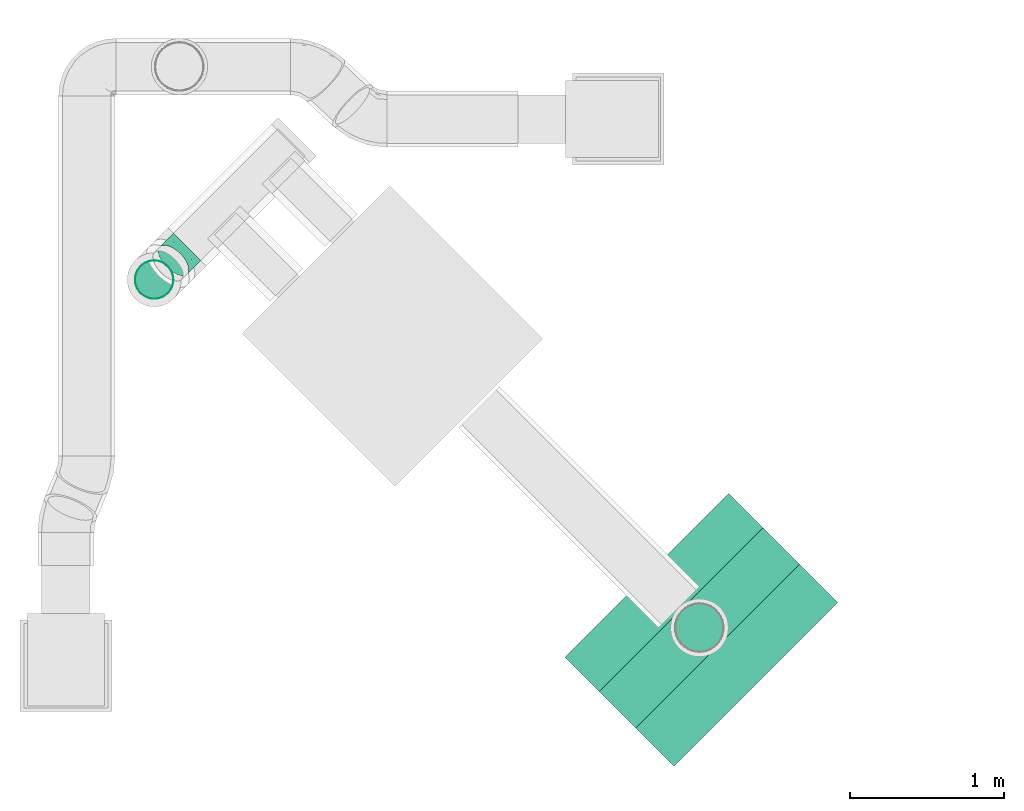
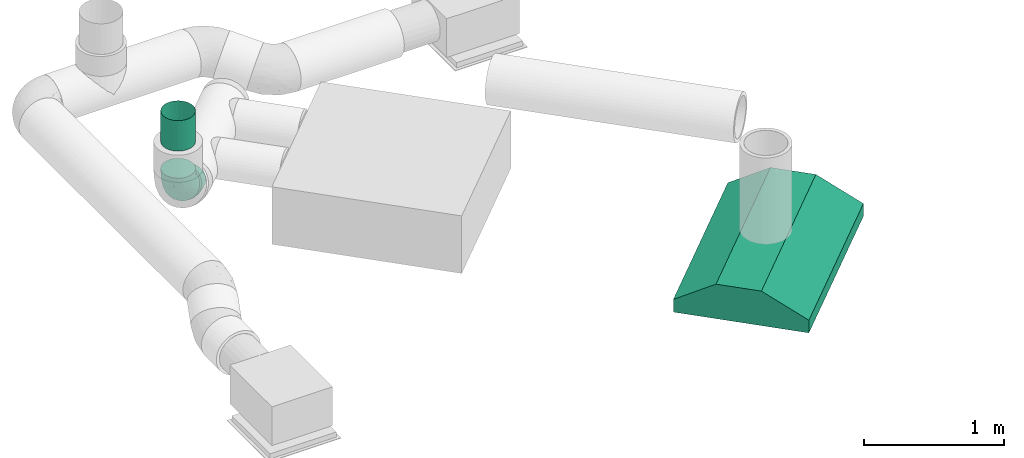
# One storey, part 9 of 12: 2 flow fittings, 1 flow controller, 1 flow terminal.
"""IFC2X3 building model written with IfcOpenShell, lengths in millimetres."""

from ifc_helpers import new_model, entity, si_unit, converted_unit, derived_unit, direction, frame, origin_with_axes, place, context, subcontext, project, spatial, open_shell, surface_model, source, transform, mapped, type_object, element, save


model = new_model("IFC2X3")

# Units and contexts
model_context = context("Model", 3, precision=0.01, world=frame((0.0, 4.29681676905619e-09, 0.0)), true_north=direction((4.01073788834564e-13, 1.0)))
plan_context = context("Plan", 3, precision=0.01, world=frame((0.0, 4.29681676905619e-09, 0.0)), true_north=direction((4.01073788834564e-13, 1.0)))
body_context = subcontext(model_context, "Body", "Model", "MODEL_VIEW")
ifc_project = project(units=[converted_unit("PLANEANGLEUNIT", "DEGREE", entity("IfcPositiveLengthMeasure", 0.0174532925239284), si_unit("PLANEANGLEUNIT", "RADIAN"), dimensions=[0, 0, 0, 0, 0, 0, 0]), si_unit("AREAUNIT", "SQUARE_METRE"), si_unit("LENGTHUNIT", "METRE", prefix="MILLI"), si_unit("MASSUNIT", "GRAM", prefix="KILO"), si_unit("POWERUNIT", "WATT"), si_unit("PRESSUREUNIT", "PASCAL", prefix="KILO"), si_unit("FORCEUNIT", "NEWTON", prefix="KILO"), si_unit("ELECTRICVOLTAGEUNIT", "VOLT"), si_unit("ELECTRICCURRENTUNIT", "AMPERE"), si_unit("THERMODYNAMICTEMPERATUREUNIT", "DEGREE_CELSIUS"), si_unit("TIMEUNIT", "SECOND"), si_unit("VOLUMEUNIT", "CUBIC_METRE"), derived_unit("LINEARVELOCITYUNIT", [(si_unit("LENGTHUNIT", "METRE"), 1), (si_unit("TIMEUNIT", "SECOND"), -1)]), derived_unit("VOLUMETRICFLOWRATEUNIT", [(si_unit("VOLUMEUNIT", "CUBIC_METRE"), 1), (si_unit("TIMEUNIT", "SECOND"), -1)]), derived_unit("THERMALTRANSMITTANCEUNIT", [(si_unit("POWERUNIT", "WATT"), 1), (si_unit("THERMODYNAMICTEMPERATUREUNIT", "KELVIN"), -1), (si_unit("AREAUNIT", "SQUARE_METRE"), -1)]), derived_unit("SOUNDPRESSUREUNIT", [(si_unit("PRESSUREUNIT", "PASCAL"), 1)])], contexts=[model_context, plan_context])

# Site, building, storey
site_placement = place(None, frame((0.0, -4.29681676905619e-09, 0.0), z_axis=(0.0, 0.0, 1.0), x_axis=(1.0, 0.0, 0.0)))
site = spatial("IfcSite", under=ifc_project, at=site_placement, CompositionType="ELEMENT")
building_placement = place(site_placement, frame((0.0, 4.29681676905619e-09, 0.0), z_axis=(0.0, 0.0, 1.0), x_axis=(1.0, 0.0, 0.0)))
building = spatial("IfcBuilding", under=site, at=building_placement, Name="mc-building", CompositionType="ELEMENT")
storey_placement = place(building_placement, frame((0.0, 0.0, 204000.0), z_axis=(0.0, 0.0, 1.0), x_axis=(1.0, 0.0, 0.0)))
storey = spatial("IfcBuildingStorey", under=building, at=storey_placement, Name="Nivå D", CompositionType="ELEMENT", Elevation=204000.0)

# Flow controller
damper_type = type_object("IfcDamperType", Name="IGNIS-C-EI30-250", PredefinedType="FIREDAMPER")
shared_shape_1 = source(origin_with_axes(), body_context, "Body", "SurfaceModel", [
    surface_model("IfcShellBasedSurfaceModel", [(132.5, 62.25, -107.82016), (132.5, 88.0348, -88.0348), (132.5, 62.15, -107.64695), (132.5, 32.17121, -120.06458), (132.5, 0.0, -124.3), (132.5, 32.22297, -120.25777), (132.5, 0.0, -124.5), (132.5, 87.89337, -87.89337), (132.5, 120.25777, -32.22297), (132.5, 124.3, 0.0), (132.5, 120.06458, -32.17121), (132.5, 124.5, 0.0), (132.5, 107.82016, -62.25), (132.5, 107.64695, -62.15), (132.5, -32.17121, -120.06458), (132.5, -32.22297, -120.25777), (132.5, -62.15, -107.64695), (132.5, -88.0348, -88.0348), (132.5, -62.25, -107.82016), (132.5, -87.89337, -87.89337), (132.5, -107.64695, -62.15), (132.5, -107.82016, -62.25), (132.5, -120.06458, -32.17121), (132.5, -120.25777, -32.22297), (132.5, -124.3, 0.0), (132.5, -124.5, 0.0), (132.5, 120.25777, 32.22297), (132.5, 120.06458, 32.17121), (132.5, 107.64695, 62.15), (132.5, 107.82016, 62.25), (132.5, 87.89337, 87.89337), (132.5, 88.0348, 88.0348), (132.5, 62.25, 107.82016), (132.5, 62.15, 107.64695), (132.5, 32.17121, 120.06458), (132.5, 32.22297, 120.25777), (132.5, 0.0, 124.3), (132.5, 0.0, 124.5), (132.5, -107.82016, 62.25), (132.5, -107.64695, 62.15), (132.5, -88.0348, 88.0348), (132.5, -87.89337, 87.89337), (132.5, -120.25777, 32.22297), (132.5, -120.06458, 32.17121), (132.5, -32.17121, 120.06458), (132.5, -32.22297, 120.25777), (132.5, -62.15, 107.64695), (132.5, -62.25, 107.82016), (-132.5, 62.25, 107.82016), (-132.5, 88.0348, 88.0348), (-132.5, 62.15, 107.64695), (-132.5, 32.17121, 120.06458), (-132.5, 0.0, 124.3), (-132.5, 32.22297, 120.25777), (-132.5, 0.0, 124.5), (-132.5, 87.89337, 87.89337), (-132.5, 120.25777, 32.22297), (-132.5, 124.3, 0.0), (-132.5, 120.06458, 32.17121), (-132.5, 124.5, 0.0), (-132.5, 107.82016, 62.25), (-132.5, 107.64695, 62.15), (-132.5, -32.17121, 120.06458), (-132.5, -32.22297, 120.25777), (-132.5, -62.15, 107.64695), (-132.5, -88.0348, 88.0348), (-132.5, -62.25, 107.82016), (-132.5, -87.89337, 87.89337), (-132.5, -107.64695, 62.15), (-132.5, -107.82016, 62.25), (-132.5, -120.06458, 32.17121), (-132.5, -120.25777, 32.22297), (-132.5, -124.3, 0.0), (-132.5, -124.5, 0.0), (-132.5, 120.25777, -32.22297), (-132.5, 120.06458, -32.17121), (-132.5, 107.64695, -62.15), (-132.5, 107.82016, -62.25), (-132.5, 87.89337, -87.89337), (-132.5, 88.0348, -88.0348), (-132.5, 62.25, -107.82016), (-132.5, 62.15, -107.64695), (-132.5, 32.17121, -120.06458), (-132.5, 32.22297, -120.25777), (-132.5, 0.0, -124.3), (-132.5, 0.0, -124.5), (-132.5, -107.82016, -62.25), (-132.5, -107.64695, -62.15), (-132.5, -88.0348, -88.0348), (-132.5, -87.89337, -87.89337), (-132.5, -120.25777, -32.22297), (-132.5, -120.06458, -32.17121), (-132.5, -32.17121, -120.06458), (-132.5, -32.22297, -120.25777), (-132.5, -62.15, -107.64695), (-132.5, -62.25, -107.82016)], [open_shell([[[0, 1, 2]], [[0, 2, 3]], [[4, 5, 3]], [[5, 4, 6]], [[3, 5, 0]], [[2, 1, 7]], [[8, 9, 10]], [[9, 8, 11]], [[8, 10, 12]], [[7, 12, 13]], [[12, 7, 1]], [[13, 12, 10]], [[6, 14, 15]], [[15, 14, 16]], [[17, 18, 19]], [[16, 18, 15]], [[16, 19, 18]], [[6, 4, 14]], [[20, 21, 17]], [[21, 20, 22]], [[20, 17, 19]], [[23, 22, 24]], [[22, 23, 21]], [[23, 24, 25]], [[11, 26, 27]], [[27, 26, 28]], [[28, 29, 30]], [[29, 28, 26]], [[30, 29, 31]], [[31, 32, 33]], [[33, 32, 34]], [[34, 35, 36]], [[35, 34, 32]], [[36, 35, 37]], [[33, 30, 31]], [[38, 39, 40]], [[40, 39, 41]], [[39, 38, 42]], [[25, 43, 42]], [[42, 43, 39]], [[25, 24, 43]], [[44, 37, 45]], [[44, 45, 46]], [[41, 47, 40]], [[41, 46, 47]], [[47, 46, 45]], [[36, 37, 44]], [[27, 9, 11]], [[48, 49, 50]], [[48, 50, 51]], [[52, 53, 51]], [[53, 52, 54]], [[51, 53, 48]], [[50, 49, 55]], [[56, 57, 58]], [[57, 56, 59]], [[56, 58, 60]], [[55, 60, 61]], [[60, 55, 49]], [[61, 60, 58]], [[54, 62, 63]], [[63, 62, 64]], [[65, 66, 67]], [[64, 66, 63]], [[64, 67, 66]], [[54, 52, 62]], [[68, 69, 65]], [[69, 68, 70]], [[68, 65, 67]], [[71, 70, 72]], [[70, 71, 69]], [[71, 72, 73]], [[59, 74, 75]], [[75, 74, 76]], [[76, 77, 78]], [[77, 76, 74]], [[78, 77, 79]], [[79, 80, 81]], [[81, 80, 82]], [[82, 83, 84]], [[83, 82, 80]], [[84, 83, 85]], [[81, 78, 79]], [[86, 87, 88]], [[88, 87, 89]], [[87, 86, 90]], [[73, 91, 90]], [[90, 91, 87]], [[73, 72, 91]], [[92, 85, 93]], [[92, 93, 94]], [[89, 95, 88]], [[89, 94, 95]], [[95, 94, 93]], [[84, 85, 92]], [[75, 57, 59]], [[23, 90, 86]], [[88, 21, 86]], [[18, 95, 93]], [[88, 95, 17]], [[15, 93, 85]], [[90, 25, 73]], [[90, 23, 25]], [[86, 21, 23]], [[88, 17, 21]], [[18, 17, 95]], [[93, 15, 18]], [[85, 6, 15]], [[5, 83, 80]], [[79, 0, 80]], [[12, 77, 74]], [[79, 77, 1]], [[8, 74, 59]], [[83, 5, 6]], [[80, 0, 5]], [[79, 1, 0]], [[77, 12, 1]], [[8, 12, 74]], [[59, 11, 8]], [[83, 6, 85]], [[59, 56, 26]], [[53, 32, 48]], [[48, 31, 49]], [[35, 53, 54]], [[59, 26, 11]], [[26, 56, 60]], [[26, 60, 29]], [[60, 49, 29]], [[49, 31, 29]], [[32, 31, 48]], [[53, 35, 32]], [[54, 37, 35]], [[45, 63, 66]], [[65, 47, 66]], [[38, 69, 71]], [[65, 69, 40]], [[42, 71, 73]], [[63, 45, 37]], [[66, 47, 45]], [[65, 40, 47]], [[69, 38, 40]], [[42, 38, 71]], [[73, 25, 42]], [[63, 37, 54]], [[87, 91, 22]], [[87, 20, 89]], [[92, 94, 16]], [[19, 94, 89]], [[84, 92, 14]], [[72, 24, 91]], [[24, 22, 91]], [[22, 20, 87]], [[20, 19, 89]], [[94, 19, 16]], [[16, 14, 92]], [[14, 4, 84]], [[81, 82, 3]], [[81, 2, 78]], [[75, 76, 13]], [[7, 76, 78]], [[57, 75, 10]], [[4, 3, 82]], [[3, 2, 81]], [[2, 7, 78]], [[7, 13, 76]], [[75, 13, 10]], [[10, 9, 57]], [[84, 4, 82]], [[27, 58, 57]], [[50, 33, 51]], [[55, 30, 50]], [[52, 51, 34]], [[9, 27, 57]], [[61, 58, 27]], [[28, 61, 27]], [[28, 55, 61]], [[28, 30, 55]], [[50, 30, 33]], [[33, 34, 51]], [[34, 36, 52]], [[64, 62, 44]], [[64, 46, 67]], [[70, 68, 39]], [[41, 68, 67]], [[72, 70, 43]], [[36, 44, 62]], [[44, 46, 64]], [[46, 41, 67]], [[41, 39, 68]], [[70, 39, 43]], [[43, 24, 72]], [[52, 36, 62]]])]),
])
flow_controller_placement = place(storey_placement, frame((597169.2875, 403005.94192, 3317.59680999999), z_axis=(-1.0, 0.0, 0.0), x_axis=(0.0, 0.0, 1.0)))
element("IfcFlowController", 1, at=flow_controller_placement, inside=storey, type_object=damper_type, Name="IGNIS-C-EI30-250", context=body_context, shape_type="MappedRepresentation", body=[
    mapped(shared_shape_1, transform((0.0, 0.0, 0.0), scale=1.0)),
])

# Flow fittings
duct_fitting_type = type_object("IfcDuctFittingType", Name="magicirc_elbow_full_radius_001", PredefinedType="BEND")
shared_shape_2 = source(origin_with_axes(), body_context, "Body", "SurfaceModel", [
    surface_model("IfcShellBasedSurfaceModel", [(-144.33757, 62.5, -108.25318), (-144.33757, 32.35238, -120.74073), (-144.33757, 0.0, -125.0), (-144.33757, -120.74073, 32.35238), (-144.33757, 120.74073, -32.35238), (-144.33757, 108.25318, -62.5), (-144.33757, 88.38835, -88.38835), (-144.33757, -108.25318, -62.5), (-144.33757, -62.5, -108.25318), (-144.33757, -88.38835, -88.38835), (-144.33757, -32.35238, -120.74073), (-144.33757, -125.0, 0.0), (-144.33757, -120.74073, -32.35238), (-144.33757, 120.74073, 32.35238), (-144.33757, 108.25318, 62.5), (-144.33757, 88.38835, 88.38835), (-144.33757, 62.5, 108.25318), (-144.33757, 32.35238, 120.74073), (-144.33757, -88.38835, 88.38835), (-144.33757, -62.5, 108.25318), (-144.33757, -108.25318, 62.5), (-144.33757, -32.35238, 120.74073), (-144.33757, 0.0, 125.0), (-144.33757, 125.0, 0.0), (72.16878, 125.0, -125.0), (44.1508, 141.17619, -120.74073), (18.0422, 156.25, -108.25318), (176.73333, 64.62964, 32.35238), (100.18677, 108.82381, -120.74073), (-32.39575, 185.37037, 32.35238), (-4.37777, 169.19418, -88.38835), (-21.58122, 179.12658, -62.5), (148.71534, 80.80582, -88.38835), (126.29537, 93.75, -108.25318), (176.73333, 64.62964, -32.35238), (165.91878, 70.87341, -62.5), (180.42196, 62.5, 0.0), (-32.39575, 185.37037, -32.35238), (-4.37777, 169.19418, 88.38835), (-21.58122, 179.12658, 62.5), (18.0422, 156.25, 108.25318), (44.1508, 141.17619, 120.74073), (148.71534, 80.80582, 88.38835), (165.91878, 70.87341, 62.5), (126.29537, 93.75, 108.25318), (72.16878, 125.0, 125.0), (100.18677, 108.82381, 120.74073), (-36.08439, 187.5, 0.0), (26.49044, 37.93753, 122.99296), (4.09196, 55.44238, 124.8881), (-18.1161, 31.378, 124.97613), (-79.2195, -119.30291, 0.0), (-89.8339, -114.05336, 40.92505), (-113.24598, -122.27984, 0.0), (64.09517, 73.73329, 122.87087), (92.37672, 57.94664, 112.3354), (-40.4364, -74.35157, 86.13376), (-61.55425, -46.64733, 110.73899), (-88.59351, -77.10854, 94.49749), (-106.55267, -100.10298, 72.06405), (-60.58018, -95.57784, 66.91194), (-107.15621, -50.12604, 113.47732), (-91.23447, -18.4106, 122.7494), (59.12757, 15.83042, 109.54055), (11.99971, 0.54518, 116.85028), (37.80862, -23.34323, 97.29938), (-10.67839, -79.37452, 67.1046), (-38.41478, -103.55612, 38.00607), (8.55986, -84.00999, 43.07909), (-104.34206, 115.17128, 60.53487), (-90.20377, 102.9436, 83.19136), (-70.83656, 124.90274, 67.9657), (53.14647, -41.62684, 71.97067), (26.54426, -65.7775, 61.10126), (40.24792, -68.22709, 41.56722), (47.08493, 109.51312, 124.36768), (-117.97434, 45.75756, 116.97624), (-100.34943, 14.00554, 124.60409), (-102.57047, 75.53286, 103.15141), (-50.15883, 150.19063, 53.92119), (-91.53272, 129.98979, 38.61407), (-81.83756, 141.74683, 0.0), (-111.98519, 129.25927, 0.0), (-13.39003, 69.60192, 122.03015), (-45.43703, 45.70377, 122.86135), (69.54677, -51.82231, 35.26206), (43.16243, -74.75953, 0.0), (69.93511, -56.0131, 0.0), (-55.04518, 158.15986, 27.63354), (-47.18758, 91.27179, 107.43201), (-12.57635, 128.78502, 102.90379), (-60.1393, 107.32309, 92.26699), (27.87324, 78.99918, 124.78601), (10.26194, 110.16294, 117.8957), (107.09934, 32.38582, 93.88151), (-121.22939, 98.51173, 79.13671), (107.41123, -20.75693, 35.97359), (119.81844, -14.15601, 0.0), (140.28448, 16.15473, 40.18148), (-42.1189, 131.64852, 82.8306), (162.52044, 36.93398, 0.0), (133.73606, 32.52707, 70.80226), (-7.94717, -33.17327, 107.18907), (-32.95813, -10.32725, 120.52334), (-57.87273, 15.57422, 124.99993), (-55.94922, 161.61165, 0.0), (97.91221, -12.52051, 64.266), (-47.64976, -110.84382, 0.0), (25.61571, -82.23943, 21.22309), (5.46652, -56.58773, 85.45321), (75.3656, -0.28168, 93.43803), (-82.65177, 48.12548, 118.78937), (-56.18189, 66.51833, 116.05339), (96.70779, -37.26667, 0.0), (-16.08001, -102.38473, 0.0), (13.54121, -88.57213, 0.0), (142.9291, 8.95465, 0.0), (-1.20064, 2.07956, -119.6211), (-17.7198, -36.01006, -108.08873), (-46.92611, -18.09219, -119.92945), (113.93031, 42.49599, -94.94832), (81.4431, 43.57515, -111.79336), (-110.00315, 13.82557, -124.48429), (43.02828, 102.1783, -124.48429), (7.88084, 106.67696, -118.11039), (-67.7794, 17.43593, -124.8935), (-96.32539, 46.51347, -118.11038), (-31.8006, -68.19769, -89.25612), (27.73791, -48.04346, -82.22287), (-2.36958, -86.50091, -48.46322), (32.44978, -66.33656, -54.7239), (29.28681, -78.88202, -27.67042), (-91.53272, 129.98979, -38.61407), (67.73956, -47.87011, -47.42368), (84.17517, -44.35277, -24.16785), (-104.85542, 75.31763, -102.93975), (-75.72055, 67.44356, -112.26247), (-105.27531, 115.04482, -60.27926), (-46.27343, 54.20071, -121.09087), (-77.5862, -97.98193, -68.85501), (-94.86331, -114.54078, -41.57726), (33.57186, -11.44724, -106.00726), (-47.42384, -103.96604, -44.01729), (-93.76776, -77.41855, -94.94832), (-42.75242, 130.96546, -82.94978), (-71.52907, 124.66467, -67.74325), (-50.31059, 150.02486, -53.95587), (0.8197, -71.83666, -70.7403), (-35.42009, -89.59438, -65.22518), (-78.45874, -48.74422, -111.79336), (-6.55461, -96.20236, -24.31315), (15.20326, 36.82079, -123.93688), (64.2451, 73.97032, -122.87805), (41.38581, 29.93787, -119.09701), (-50.94518, 88.23962, -107.83709), (-60.84948, 106.50782, -92.58056), (-12.79928, 128.46627, -102.93974), (-55.06184, 158.13864, -27.64945), (-96.18273, -18.65273, -122.87805), (-91.07926, 102.73319, -83.07634), (-121.75878, 98.48909, -79.06753), (123.64794, 18.20066, -68.85501), (146.62688, 24.88365, -41.57726), (110.09482, -15.39813, -42.21046), (89.68771, -18.22809, -66.29862), (74.96123, -6.55871, -89.25612), (57.05145, 15.67266, -110.21209), (-63.38561, -113.80503, -23.85462), (-18.42413, 31.55935, -124.98182), (-20.54758, 99.29768, -112.26247), (-11.74869, 73.41934, -121.5459), (18.78973, 67.41664, -124.8935)], [open_shell([[[0, 1, 2]], [[0, 2, 3]], [[4, 5, 6]], [[6, 0, 3]], [[3, 2, 7]], [[8, 9, 10]], [[7, 10, 9]], [[11, 3, 12]], [[2, 10, 7]], [[3, 7, 12]], [[6, 13, 4]], [[13, 6, 3]], [[14, 13, 15]], [[3, 16, 13]], [[15, 13, 16]], [[16, 3, 17]], [[18, 19, 20]], [[3, 20, 19]], [[21, 22, 19]], [[17, 3, 19]], [[19, 22, 17]], [[23, 4, 13]], [[24, 25, 26]], [[27, 28, 24]], [[29, 30, 31]], [[26, 27, 24]], [[30, 27, 26]], [[28, 32, 33]], [[32, 28, 34]], [[32, 34, 35]], [[34, 28, 27]], [[34, 27, 36]], [[31, 37, 29]], [[27, 30, 29]], [[38, 29, 39]], [[29, 40, 27]], [[40, 29, 38]], [[41, 27, 40]], [[27, 42, 43]], [[42, 27, 44]], [[44, 45, 46]], [[44, 27, 41]], [[41, 45, 44]], [[29, 37, 47]], [[48, 49, 50]], [[51, 52, 53]], [[46, 54, 55]], [[56, 57, 58]], [[59, 52, 60]], [[21, 61, 62]], [[20, 59, 18]], [[21, 62, 22]], [[63, 64, 65]], [[58, 19, 18]], [[21, 19, 61]], [[66, 67, 68]], [[69, 70, 71]], [[72, 73, 74]], [[45, 75, 54]], [[17, 76, 16]], [[77, 22, 62]], [[78, 15, 16]], [[22, 77, 17]], [[20, 3, 52]], [[39, 29, 79]], [[80, 81, 82]], [[83, 84, 50]], [[82, 23, 13]], [[82, 13, 80]], [[85, 86, 87]], [[88, 80, 79]], [[89, 90, 91]], [[91, 78, 89]], [[92, 48, 54]], [[60, 52, 67]], [[41, 40, 93]], [[44, 55, 94]], [[78, 70, 95]], [[42, 44, 94]], [[96, 97, 98]], [[77, 76, 17]], [[46, 45, 54]], [[99, 38, 39]], [[98, 100, 27]], [[14, 69, 13]], [[43, 101, 98]], [[57, 102, 103]], [[43, 98, 27]], [[14, 15, 95]], [[90, 89, 93]], [[43, 42, 101]], [[81, 80, 88]], [[84, 104, 50]], [[105, 88, 47]], [[106, 98, 101]], [[79, 99, 39]], [[52, 107, 67]], [[90, 93, 40]], [[71, 99, 79]], [[93, 83, 92]], [[61, 58, 57]], [[56, 58, 60]], [[52, 3, 53]], [[93, 92, 75]], [[75, 45, 41]], [[98, 106, 96]], [[86, 85, 108]], [[59, 58, 18]], [[56, 66, 109]], [[110, 63, 65]], [[103, 62, 57]], [[111, 104, 84]], [[76, 78, 16]], [[78, 111, 112]], [[40, 38, 90]], [[49, 83, 50]], [[92, 49, 48]], [[55, 63, 94]], [[88, 79, 29]], [[71, 70, 91]], [[42, 94, 101]], [[106, 101, 94]], [[57, 56, 102]], [[102, 64, 103]], [[62, 103, 104]], [[76, 77, 111]], [[38, 99, 90]], [[90, 99, 91]], [[106, 110, 72]], [[85, 74, 108]], [[93, 89, 83]], [[84, 112, 111]], [[64, 50, 103]], [[63, 54, 48]], [[65, 102, 109]], [[64, 48, 50]], [[72, 65, 109]], [[63, 110, 94]], [[109, 66, 73]], [[85, 106, 72]], [[65, 64, 102]], [[63, 48, 64]], [[85, 113, 96]], [[108, 67, 114]], [[72, 110, 65]], [[106, 94, 110]], [[52, 59, 20]], [[58, 59, 60]], [[58, 61, 19]], [[62, 61, 57]], [[79, 80, 71]], [[69, 71, 80]], [[13, 69, 80]], [[95, 69, 14]], [[112, 83, 89]], [[104, 111, 77]], [[62, 104, 77]], [[103, 50, 104]], [[83, 112, 84]], [[78, 112, 89]], [[60, 67, 66]], [[56, 109, 102]], [[60, 66, 56]], [[73, 66, 68]], [[74, 73, 68]], [[109, 73, 72]], [[74, 68, 108]], [[72, 74, 85]], [[67, 108, 68]], [[108, 114, 115]], [[46, 55, 44]], [[115, 86, 108]], [[54, 63, 55]], [[47, 88, 29]], [[88, 105, 81]], [[3, 11, 53]], [[100, 98, 116]], [[100, 36, 27]], [[78, 76, 111]], [[78, 95, 15]], [[69, 95, 70]], [[93, 75, 41]], [[54, 75, 92]], [[71, 91, 99]], [[78, 91, 70]], [[106, 85, 96]], [[97, 116, 98]], [[113, 85, 87]], [[92, 83, 49]], [[107, 52, 51]], [[107, 114, 67]], [[97, 96, 113]], [[117, 118, 119]], [[33, 120, 121]], [[1, 122, 2]], [[123, 124, 25]], [[125, 122, 126]], [[127, 118, 128]], [[23, 82, 4]], [[129, 130, 131]], [[4, 82, 132]], [[131, 133, 134]], [[126, 135, 136]], [[4, 132, 137]], [[125, 126, 138]], [[135, 126, 0]], [[139, 140, 7]], [[141, 118, 117]], [[140, 53, 12]], [[139, 142, 140]], [[143, 9, 8]], [[144, 145, 146]], [[7, 9, 139]], [[132, 145, 137]], [[147, 129, 148]], [[140, 12, 7]], [[8, 149, 143]], [[150, 129, 131]], [[143, 127, 139]], [[8, 10, 149]], [[151, 152, 153]], [[37, 31, 146]], [[81, 132, 82]], [[154, 155, 156]], [[37, 146, 157]], [[10, 2, 158]], [[37, 157, 47]], [[126, 1, 0]], [[26, 124, 156]], [[31, 30, 144]], [[155, 159, 145]], [[5, 160, 6]], [[25, 24, 123]], [[33, 32, 120]], [[161, 32, 35]], [[156, 30, 26]], [[153, 141, 117]], [[121, 152, 28]], [[149, 10, 158]], [[146, 31, 144]], [[35, 34, 162]], [[163, 133, 164]], [[33, 121, 28]], [[24, 28, 152]], [[121, 120, 165]], [[121, 166, 153]], [[162, 100, 116]], [[140, 142, 167]], [[164, 161, 163]], [[35, 162, 161]], [[162, 163, 161]], [[148, 129, 142]], [[25, 124, 26]], [[168, 125, 138]], [[126, 136, 138]], [[157, 81, 105]], [[169, 170, 138]], [[0, 6, 135]], [[32, 161, 120]], [[165, 120, 161]], [[153, 152, 121]], [[123, 152, 171]], [[162, 34, 100]], [[113, 134, 97]], [[127, 143, 149]], [[139, 9, 143]], [[122, 158, 2]], [[125, 168, 119]], [[148, 142, 139]], [[167, 51, 140]], [[144, 155, 145]], [[132, 81, 157]], [[160, 135, 6]], [[135, 159, 155]], [[169, 156, 124]], [[144, 30, 156]], [[162, 116, 97]], [[133, 163, 134]], [[138, 154, 169]], [[168, 117, 119]], [[170, 168, 138]], [[151, 168, 171]], [[166, 165, 141]], [[117, 168, 151]], [[128, 141, 165]], [[141, 128, 118]], [[164, 128, 165]], [[147, 130, 129]], [[127, 149, 118]], [[119, 149, 158]], [[149, 119, 118]], [[125, 119, 158]], [[150, 142, 129]], [[107, 167, 114]], [[128, 164, 133]], [[161, 164, 165]], [[126, 122, 1]], [[158, 122, 125]], [[152, 123, 24]], [[124, 123, 171]], [[139, 127, 148]], [[147, 127, 128]], [[127, 147, 148]], [[130, 128, 133]], [[128, 130, 147]], [[87, 131, 134]], [[133, 131, 130]], [[131, 115, 150]], [[87, 134, 113]], [[86, 131, 87]], [[162, 97, 163]], [[137, 145, 159]], [[34, 36, 100]], [[167, 150, 114]], [[115, 131, 86]], [[115, 114, 150]], [[132, 146, 145]], [[160, 137, 159]], [[4, 137, 5]], [[150, 167, 142]], [[51, 167, 107]], [[132, 157, 146]], [[47, 157, 105]], [[53, 140, 51]], [[53, 11, 12]], [[137, 160, 5]], [[135, 160, 159]], [[156, 155, 144]], [[135, 155, 154]], [[135, 154, 136]], [[138, 136, 154]], [[169, 124, 170]], [[154, 156, 169]], [[124, 171, 170]], [[168, 170, 171]], [[97, 134, 163]], [[152, 151, 171]], [[117, 151, 153]], [[165, 166, 121]], [[141, 153, 166]]])]),
])
flow_fitting_1_placement = place(storey_placement, frame((597169.2875, 403005.94192, 2805.09680999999), z_axis=(-0.707230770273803, 0.706982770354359, 4.71844785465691e-16), x_axis=(-0.612265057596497, -0.612479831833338, 0.499999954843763)))
element("IfcFlowFitting", 2, at=flow_fitting_1_placement, inside=storey, type_object=duct_fitting_type, Name="magicirc_elbow_full_radius_001", context=body_context, shape_type="MappedRepresentation", body=[
    mapped(shared_shape_2, transform((0.0, 0.0, 0.0), scale=1.0)),
])
shared_shape_3 = source(origin_with_axes(), body_context, "Body", "SurfaceModel", [
    surface_model("IfcShellBasedSurfaceModel", [(-66.9873, 120.74073, -32.35238), (-66.9873, 108.25318, -62.5), (-66.9873, 88.38835, -88.38835), (-66.9873, -62.5, -108.25318), (-66.9873, -88.38835, -88.38835), (-66.9873, -32.35238, -120.74073), (-66.9873, -32.35238, 120.74073), (-66.9873, 0.0, 125.0), (-66.9873, -62.5, 108.25318), (-66.9873, 32.35238, 120.74073), (112.13929, -60.25635, -62.5), (120.5127, -74.75953, 0.0), (118.38306, -71.07089, -32.35238), (112.13929, -60.25635, 62.5), (89.2627, -20.63294, 108.25318), (102.20688, -43.0529, 88.38835), (58.0127, 33.49365, 125.0), (74.18889, 5.47567, 120.74073), (41.83651, 61.51163, 120.74073), (-66.9873, -120.74073, 32.35238), (-10.52673, -112.57243, 44.15342), (-66.9873, -108.25318, 62.5), (-1.86923, -119.30291, 0.0), (-20.91676, -120.23002, 21.79378), (-35.89571, -122.27984, 0.0), (24.34933, -90.87293, 70.97238), (-24.69912, -98.35294, 73.77062), (70.56654, -72.82659, 73.77062), (-31.85796, -48.03233, 114.52264), (-13.67198, -74.62338, 96.89352), (11.40538, -42.56547, 113.26105), (-66.9873, -88.38835, 88.38835), (25.12039, -111.15876, 23.77057), (27.61966, -103.07798, 47.7187), (-19.81421, -15.54023, 123.43822), (-5.29627, 19.76594, 124.45647), (-40.67459, 15.80942, 124.17521), (51.60597, -25.66825, 114.52264), (-66.9873, 62.5, 108.25318), (-26.6654, 48.83353, 116.68363), (-21.17057, 79.00964, 101.4852), (26.7627, 87.62023, 108.25318), (13.81853, 110.0402, 88.38835), (49.15197, -57.78976, 96.89352), (-66.9873, 88.38835, 88.38835), (-24.78516, 103.10992, 78.63486), (-66.9873, 120.74073, 32.35238), (-66.9873, 108.25318, 62.5), (-31.85959, 118.90162, 50.65349), (-33.4328, 126.77673, 25.88802), (-66.9873, 125.0, 0.0), (65.40263, -92.22723, 44.15342), (118.38306, -71.07089, 32.35238), (78.22946, -93.66387, 21.79379), (92.22651, -87.94959, 0.0), (28.3766, -1.98516, 123.48117), (27.32052, 34.02865, 124.17521), (3.88611, 127.24365, 62.5), (-2.35766, 138.05819, 32.35238), (-34.63492, 129.25927, 0.0), (-4.4873, 141.74683, 0.0), (8.66503, 60.17207, 116.36517), (-66.9873, -125.0, 0.0), (29.70051, -110.84382, 0.0), (61.27026, -102.38473, 0.0), (65.40263, -92.22723, -44.15342), (58.0127, 33.49365, -125.0), (74.18889, 5.47567, -120.74073), (24.92973, -3.55113, -123.43822), (-40.67459, 15.80941, -124.17521), (-66.9873, 0.0, -125.0), (-66.9873, 32.35238, -120.74073), (-23.58227, -15.9075, -123.48117), (-30.09038, 101.68839, -78.63485), (-21.17058, 79.00964, -101.4852), (26.7627, 87.62023, -108.25318), (41.83651, 61.51163, -120.74073), (-1.32386, 55.62377, -116.68363), (-66.9873, 62.5, -108.25318), (89.2627, -20.63294, -108.25318), (102.20688, -43.0529, -88.38835), (49.15197, -57.78975, -96.89352), (-31.85959, 118.90162, -50.65348), (-34.43471, 126.50827, -25.88802), (25.12039, -111.15876, -23.77056), (-20.91676, -120.23002, -21.79378), (-66.9873, -120.74073, -32.35238), (-37.59018, 47.77802, -116.36517), (-10.52673, -112.57244, -44.15342), (-2.35766, 138.05819, -32.35238), (3.88611, 127.24365, -62.5), (27.32052, 34.02865, -124.17521), (-24.69912, -98.35294, -73.77062), (-66.9873, -108.25318, -62.5), (-13.67198, -74.62338, -96.89352), (24.34933, -90.87294, -70.97237), (-31.85795, -48.03234, -114.52264), (11.40538, -42.56548, -113.26105), (-5.29627, 19.76594, -124.45647), (70.56654, -72.82659, -73.77062), (13.81853, 110.0402, -88.38835), (78.22945, -93.66387, -21.79378), (51.60597, -25.66825, -114.52264), (27.61966, -103.07798, -47.7187)], [open_shell([[[0, 1, 2]], [[3, 4, 5]], [[6, 7, 8]], [[8, 7, 9]], [[10, 11, 12]], [[13, 14, 15]], [[14, 16, 17]], [[16, 14, 18]], [[19, 20, 21]], [[22, 23, 24]], [[25, 26, 20]], [[13, 15, 27]], [[28, 29, 30]], [[26, 31, 21]], [[32, 33, 20]], [[6, 8, 28]], [[34, 35, 36]], [[14, 17, 37]], [[19, 24, 23]], [[20, 23, 32]], [[36, 9, 7]], [[38, 39, 40]], [[41, 42, 40]], [[38, 9, 39]], [[43, 29, 25]], [[40, 44, 38]], [[27, 43, 25]], [[45, 44, 40]], [[46, 47, 48]], [[29, 43, 30]], [[49, 50, 46]], [[26, 29, 31]], [[32, 51, 33]], [[52, 53, 54]], [[55, 35, 34]], [[15, 14, 43]], [[45, 48, 47]], [[55, 17, 16]], [[16, 18, 56]], [[53, 52, 51]], [[20, 26, 21]], [[43, 14, 37]], [[29, 26, 25]], [[13, 27, 51]], [[8, 31, 29]], [[57, 58, 48]], [[48, 45, 57]], [[46, 48, 49]], [[7, 6, 34]], [[59, 49, 60]], [[30, 37, 55]], [[58, 49, 48]], [[55, 16, 56]], [[42, 57, 45]], [[36, 39, 9]], [[45, 40, 42]], [[35, 56, 61]], [[18, 41, 61]], [[61, 40, 39]], [[44, 45, 47]], [[30, 55, 34]], [[51, 52, 13]], [[43, 27, 15]], [[28, 34, 6]], [[51, 27, 25]], [[29, 28, 8]], [[34, 28, 30]], [[55, 37, 17]], [[43, 37, 30]], [[40, 61, 41]], [[35, 61, 39]], [[60, 49, 58]], [[49, 59, 50]], [[19, 62, 24]], [[32, 23, 22]], [[19, 23, 20]], [[32, 22, 63]], [[32, 64, 53]], [[51, 25, 33]], [[25, 20, 33]], [[54, 53, 64]], [[54, 11, 52]], [[32, 53, 51]], [[34, 36, 7]], [[39, 36, 35]], [[61, 56, 18]], [[55, 56, 35]], [[64, 32, 63]], [[10, 12, 65]], [[66, 67, 68]], [[69, 70, 71]], [[70, 72, 5]], [[2, 73, 74]], [[75, 76, 77]], [[2, 74, 78]], [[79, 80, 81]], [[82, 0, 83]], [[84, 22, 85]], [[86, 85, 24]], [[71, 78, 87]], [[85, 86, 88]], [[89, 90, 82]], [[91, 77, 76]], [[92, 88, 93]], [[4, 3, 94]], [[94, 81, 95]], [[86, 93, 88]], [[4, 92, 93]], [[96, 3, 5]], [[92, 94, 95]], [[97, 96, 72]], [[98, 69, 87]], [[50, 59, 83]], [[65, 99, 10]], [[60, 89, 83]], [[97, 72, 68]], [[1, 73, 2]], [[82, 1, 0]], [[74, 100, 75]], [[98, 68, 72]], [[75, 77, 74]], [[96, 94, 3]], [[77, 87, 74]], [[100, 74, 73]], [[12, 54, 101]], [[91, 76, 66]], [[102, 67, 79]], [[84, 103, 65]], [[10, 99, 80]], [[97, 102, 81]], [[99, 81, 80]], [[98, 91, 68]], [[95, 99, 65]], [[102, 68, 67]], [[101, 54, 64]], [[72, 70, 69]], [[100, 73, 90]], [[84, 65, 101]], [[81, 94, 97]], [[82, 73, 1]], [[94, 92, 4]], [[89, 82, 83]], [[88, 92, 95]], [[73, 82, 90]], [[81, 99, 95]], [[72, 96, 5]], [[94, 96, 97]], [[81, 102, 79]], [[68, 102, 97]], [[74, 87, 78]], [[98, 87, 77]], [[50, 83, 0]], [[83, 59, 60]], [[24, 85, 22]], [[24, 62, 86]], [[84, 85, 88]], [[84, 88, 103]], [[84, 64, 63]], [[88, 95, 103]], [[95, 65, 103]], [[12, 11, 54]], [[84, 101, 64]], [[12, 101, 65]], [[87, 69, 71]], [[72, 69, 98]], [[68, 91, 66]], [[77, 91, 98]], [[63, 22, 84]], [[60, 58, 57]], [[78, 71, 70]], [[78, 70, 19]], [[2, 78, 19]], [[19, 70, 93]], [[93, 5, 4]], [[62, 19, 86]], [[70, 5, 93]], [[19, 93, 86]], [[2, 46, 0]], [[46, 2, 19]], [[47, 46, 44]], [[19, 38, 46]], [[44, 46, 38]], [[38, 19, 9]], [[31, 8, 21]], [[19, 21, 8]], [[9, 19, 8]], [[50, 0, 46]], [[66, 76, 75]], [[10, 66, 75]], [[60, 10, 75]], [[90, 75, 100]], [[90, 60, 75]], [[79, 10, 80]], [[79, 67, 66]], [[79, 66, 10]], [[10, 52, 11]], [[60, 90, 89]], [[52, 60, 57]], [[52, 42, 41]], [[57, 42, 52]], [[13, 41, 18]], [[13, 52, 41]], [[14, 13, 18]], [[60, 52, 10]]])]),
])
flow_fitting_2_placement = place(storey_placement, frame((597334.71763, 403171.43003, 2670.0), z_axis=(-0.707106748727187, 0.707106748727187, 0.000302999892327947), x_axis=(-0.707106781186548, -0.707106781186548, 0.0)))
element("IfcFlowFitting", 3, at=flow_fitting_2_placement, inside=storey, type_object=duct_fitting_type, Name="magicirc_elbow_full_radius_001", context=body_context, shape_type="MappedRepresentation", body=[
    mapped(shared_shape_3, transform((0.0, 0.0, 0.0), scale=1.0)),
])

# Flow terminal
air_terminal_type = type_object("IfcAirTerminalType", Name="Pølsehette 1500x1000 arrivals east ø315", PredefinedType="NOTDEFINED")
shared_shape_4 = source(origin_with_axes(), body_context, "Body", "SurfaceModel", [
    surface_model("IfcShellBasedSurfaceModel", [(1500.00001, -649.57227, 300.0), (1500.00001, -314.79336, 300.0), (0.0, -649.57227, 300.0), (0.0, -314.79336, 300.0), (1500.00001, 0.0, 109.95165), (1500.00001, -1000.0, 109.95165), (0.0, 0.0, 109.95165), (0.0, -1000.0, 109.95165), (0.0, -1000.0, 0.0), (0.0, 0.0, 0.0), (1500.00001, 0.0, 0.0), (1500.00001, -1000.0, 0.0)], [open_shell([[[0, 1, 2]], [[3, 2, 1]], [[4, 5, 6]], [[7, 6, 5]], [[1, 4, 6]], [[6, 3, 1]], [[3, 6, 2]], [[7, 2, 6]], [[2, 7, 0]], [[5, 0, 7]], [[0, 5, 4]], [[4, 1, 0]], [[5, 4, 7]], [[6, 7, 4]], [[8, 9, 10]], [[10, 11, 8]], [[6, 4, 10]], [[10, 9, 6]], [[7, 6, 9]], [[9, 8, 7]], [[5, 7, 11]], [[8, 11, 7]], [[4, 5, 11]], [[11, 10, 4]]])]),
])
flow_terminal_placement = place(storey_placement, frame((599829.71973, 400561.51855, 2250.0), z_axis=(0.0, 0.0, 1.0), x_axis=(0.707106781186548, 0.707106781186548, 0.0)))
element("IfcFlowTerminal", 4, at=flow_terminal_placement, inside=storey, type_object=air_terminal_type, Name="Pølsehette 1500x1000 arrivals east ø315", context=body_context, shape_type="MappedRepresentation", body=[
    mapped(shared_shape_4, transform((0.0, 0.0, 0.0), scale=1.0)),
])

save(model, "model.ifc")
